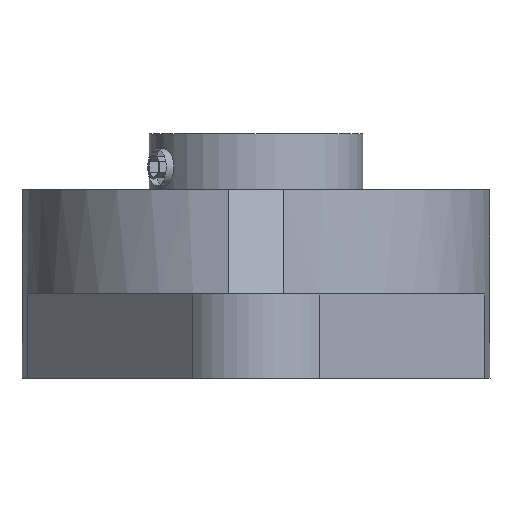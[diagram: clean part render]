
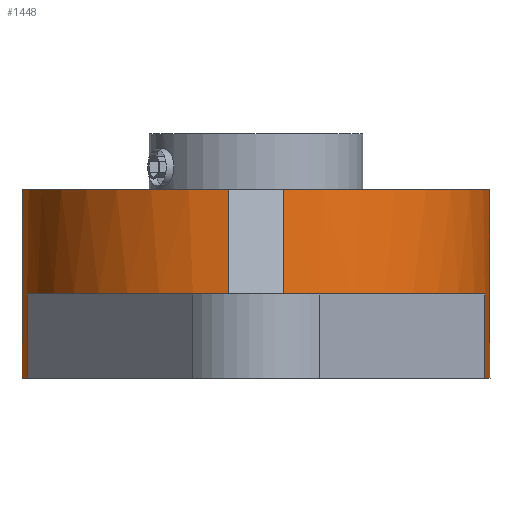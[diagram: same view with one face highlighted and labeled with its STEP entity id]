
A CAD part, front view. The second image highlights one B-rep face of the part: STEP entity #1448.
In plain terms, the highlighted cylindrical face has radius 31.75 mm (diameter 63.5 mm), a partial arc.
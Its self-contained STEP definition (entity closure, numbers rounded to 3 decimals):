
#118=FACE_BOUND('',#234,.T.);
#148=FACE_OUTER_BOUND('',#233,.T.);
#233=EDGE_LOOP('',(#970,#971,#972,#973,#974,#975,#976,#977));
#234=EDGE_LOOP('',(#978,#979));
#341=B_SPLINE_CURVE_WITH_KNOTS('',3,(#2312,#2313,#2314,#2315,#2316,#2317,
#2318,#2319,#2320,#2321,#2322,#2323,#2324,#2325,#2326,#2327,#2328,#2329),
 .UNSPECIFIED.,.F.,.F.,(4,2,2,2,2,2,2,2,4),(0.375,0.469,
0.563,0.657,0.75,0.844,
0.938,1.032,1.126),.UNSPECIFIED.);
#342=B_SPLINE_CURVE_WITH_KNOTS('',3,(#2330,#2331,#2332,#2333,#2334,#2335,
#2336,#2337,#2338,#2339,#2340,#2341,#2342,#2343,#2344,#2345,#2346,#2347,
#2348),.UNSPECIFIED.,.F.,.F.,(4,2,2,2,3,2,2,2,4),(1.126,1.219,
1.313,1.407,1.501,1.595,1.688,
1.782,1.876),.UNSPECIFIED.);
#354=LINE('',#2296,#436);
#355=LINE('',#2300,#437);
#356=LINE('',#2304,#438);
#357=LINE('',#2308,#439);
#436=VECTOR('',#1822,10.);
#437=VECTOR('',#1825,10.);
#438=VECTOR('',#1828,10.);
#439=VECTOR('',#1831,10.);
#524=CIRCLE('',#1630,31.75);
#525=CIRCLE('',#1631,31.75);
#526=CIRCLE('',#1632,31.75);
#527=CIRCLE('',#1633,31.75);
#613=VERTEX_POINT('',#2294);
#614=VERTEX_POINT('',#2295);
#615=VERTEX_POINT('',#2297);
#616=VERTEX_POINT('',#2299);
#617=VERTEX_POINT('',#2301);
#618=VERTEX_POINT('',#2303);
#619=VERTEX_POINT('',#2305);
#620=VERTEX_POINT('',#2307);
#621=VERTEX_POINT('',#2310);
#622=VERTEX_POINT('',#2311);
#758=EDGE_CURVE('',#613,#614,#354,.T.);
#759=EDGE_CURVE('',#615,#614,#524,.T.);
#760=EDGE_CURVE('',#616,#615,#355,.T.);
#761=EDGE_CURVE('',#616,#617,#525,.T.);
#762=EDGE_CURVE('',#617,#618,#356,.T.);
#763=EDGE_CURVE('',#619,#618,#526,.T.);
#764=EDGE_CURVE('',#619,#620,#357,.T.);
#765=EDGE_CURVE('',#620,#613,#527,.T.);
#766=EDGE_CURVE('',#621,#622,#341,.T.);
#767=EDGE_CURVE('',#622,#621,#342,.T.);
#970=ORIENTED_EDGE('',*,*,#758,.T.);
#971=ORIENTED_EDGE('',*,*,#759,.F.);
#972=ORIENTED_EDGE('',*,*,#760,.F.);
#973=ORIENTED_EDGE('',*,*,#761,.T.);
#974=ORIENTED_EDGE('',*,*,#762,.T.);
#975=ORIENTED_EDGE('',*,*,#763,.F.);
#976=ORIENTED_EDGE('',*,*,#764,.T.);
#977=ORIENTED_EDGE('',*,*,#765,.T.);
#978=ORIENTED_EDGE('',*,*,#766,.T.);
#979=ORIENTED_EDGE('',*,*,#767,.T.);
#1373=CYLINDRICAL_SURFACE('',#1629,31.75);
#1448=ADVANCED_FACE('',(#148,#118),#1373,.T.);
#1629=AXIS2_PLACEMENT_3D('',#2293,#1820,#1821);
#1630=AXIS2_PLACEMENT_3D('',#2298,#1823,#1824);
#1631=AXIS2_PLACEMENT_3D('',#2302,#1826,#1827);
#1632=AXIS2_PLACEMENT_3D('',#2306,#1829,#1830);
#1633=AXIS2_PLACEMENT_3D('',#2309,#1832,#1833);
#1820=DIRECTION('center_axis',(0.,0.,1.));
#1821=DIRECTION('ref_axis',(0.,1.,0.));
#1822=DIRECTION('',(0.,0.,-1.));
#1823=DIRECTION('center_axis',(0.,0.,
-1.));
#1824=DIRECTION('ref_axis',(-1.,0.,0.));
#1825=DIRECTION('',(0.,0.,1.));
#1826=DIRECTION('center_axis',(0.,0.,1.));
#1827=DIRECTION('ref_axis',(0.976,-0.216,0.));
#1828=DIRECTION('',(0.,0.,1.));
#1829=DIRECTION('center_axis',(0.,0.,
-1.));
#1830=DIRECTION('ref_axis',(-1.,0.,0.));
#1831=DIRECTION('',(0.,0.,1.));
#1832=DIRECTION('center_axis',(0.,0.,-1.));
#1833=DIRECTION('ref_axis',(-1.,0.,0.));
#2293=CARTESIAN_POINT('Origin',(0.,0.,-15.4));
#2294=CARTESIAN_POINT('',(3.75,-31.528,10.1));
#2295=CARTESIAN_POINT('',(3.75,-31.528,-4.));
#2296=CARTESIAN_POINT('',(3.75,-31.528,-15.4));
#2297=CARTESIAN_POINT('',(31.,-6.86,-4.));
#2298=CARTESIAN_POINT('Origin',(0.,0.,-4.));
#2299=CARTESIAN_POINT('',(31.,-6.86,-15.4));
#2300=CARTESIAN_POINT('',(31.,-6.86,-15.4));
#2301=CARTESIAN_POINT('',(-31.,-6.86,-15.4));
#2302=CARTESIAN_POINT('Origin',(0.,0.,-15.4));
#2303=CARTESIAN_POINT('',(-31.,-6.86,-4.));
#2304=CARTESIAN_POINT('',(-31.,-6.86,-15.4));
#2305=CARTESIAN_POINT('',(-3.75,-31.528,-4.));
#2306=CARTESIAN_POINT('Origin',(0.,0.,-4.));
#2307=CARTESIAN_POINT('',(-3.75,-31.528,10.1));
#2308=CARTESIAN_POINT('',(-3.75,-31.528,-15.4));
#2309=CARTESIAN_POINT('Origin',(0.,0.,10.1));
#2310=CARTESIAN_POINT('',(-22.451,22.451,-0.189));
#2311=CARTESIAN_POINT('',(-22.451,22.451,4.789));
#2312=CARTESIAN_POINT('Ctrl Pts',(-22.451,22.451,-0.189));
#2313=CARTESIAN_POINT('Ctrl Pts',(-22.23,22.672,-0.189));
#2314=CARTESIAN_POINT('Ctrl Pts',(-21.99,22.904,-0.126));
#2315=CARTESIAN_POINT('Ctrl Pts',(-21.544,23.324,0.128));
#2316=CARTESIAN_POINT('Ctrl Pts',(-21.337,23.513,0.319));
#2317=CARTESIAN_POINT('Ctrl Pts',(-21.007,23.808,0.761));
#2318=CARTESIAN_POINT('Ctrl Pts',(-20.862,23.934,1.041));
#2319=CARTESIAN_POINT('Ctrl Pts',(-20.669,24.101,1.654));
#2320=CARTESIAN_POINT('Ctrl Pts',(-20.622,24.142,1.987));
#2321=CARTESIAN_POINT('Ctrl Pts',(-20.622,24.142,2.613));
#2322=CARTESIAN_POINT('Ctrl Pts',(-20.669,24.101,2.946));
#2323=CARTESIAN_POINT('Ctrl Pts',(-20.862,23.934,3.559));
#2324=CARTESIAN_POINT('Ctrl Pts',(-21.007,23.808,3.839));
#2325=CARTESIAN_POINT('Ctrl Pts',(-21.337,23.513,4.281));
#2326=CARTESIAN_POINT('Ctrl Pts',(-21.544,23.324,4.472));
#2327=CARTESIAN_POINT('Ctrl Pts',(-21.99,22.904,4.726));
#2328=CARTESIAN_POINT('Ctrl Pts',(-22.23,22.672,4.789));
#2329=CARTESIAN_POINT('Ctrl Pts',(-22.451,22.451,4.789));
#2330=CARTESIAN_POINT('Ctrl Pts',(-22.451,22.451,4.789));
#2331=CARTESIAN_POINT('Ctrl Pts',(-22.672,22.23,4.789));
#2332=CARTESIAN_POINT('Ctrl Pts',(-22.904,21.99,4.726));
#2333=CARTESIAN_POINT('Ctrl Pts',(-23.324,21.544,4.472));
#2334=CARTESIAN_POINT('Ctrl Pts',(-23.513,21.337,4.281));
#2335=CARTESIAN_POINT('Ctrl Pts',(-23.808,21.007,3.839));
#2336=CARTESIAN_POINT('Ctrl Pts',(-23.934,20.862,3.559));
#2337=CARTESIAN_POINT('Ctrl Pts',(-24.101,20.669,2.946));
#2338=CARTESIAN_POINT('Ctrl Pts',(-24.142,20.622,2.613));
#2339=CARTESIAN_POINT('Ctrl Pts',(-24.142,20.622,2.3));
#2340=CARTESIAN_POINT('Ctrl Pts',(-24.142,20.622,1.987));
#2341=CARTESIAN_POINT('Ctrl Pts',(-24.101,20.669,1.654));
#2342=CARTESIAN_POINT('Ctrl Pts',(-23.934,20.862,1.041));
#2343=CARTESIAN_POINT('Ctrl Pts',(-23.808,21.007,0.761));
#2344=CARTESIAN_POINT('Ctrl Pts',(-23.513,21.337,0.319));
#2345=CARTESIAN_POINT('Ctrl Pts',(-23.324,21.544,0.128));
#2346=CARTESIAN_POINT('Ctrl Pts',(-22.904,21.99,-0.126));
#2347=CARTESIAN_POINT('Ctrl Pts',(-22.672,22.23,-0.189));
#2348=CARTESIAN_POINT('Ctrl Pts',(-22.451,22.451,-0.189));
